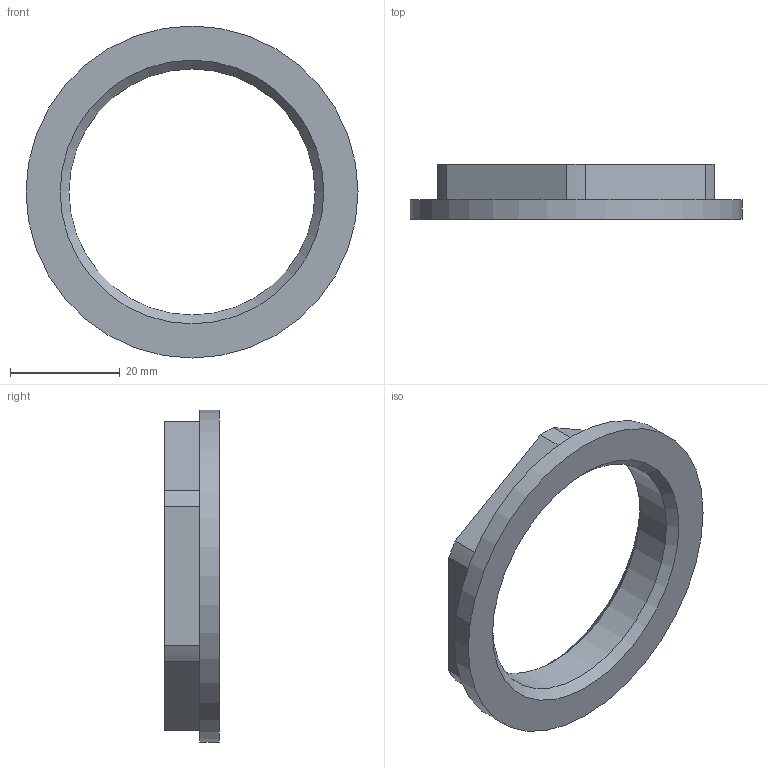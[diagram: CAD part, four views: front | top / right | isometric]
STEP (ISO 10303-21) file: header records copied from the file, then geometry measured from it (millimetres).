
FILE_DESCRIPTION(('STEP AP203'), '1');
FILE_NAME('覆.758414.005 - VTr.655.N.0008 扻艜謾骫罻', '2024-07-12T08:41:26', ('Boss'), (''), 'C3D Converter', 'C3D Toolkit', '');
FILE_SCHEMA(('CONFIG_CONTROL_DESIGN'));
Length unit declared in the file: millimetre
Products named in the file (1): ВР.758414.005
Bounding box: 60.5 x 10 x 60.5 mm (x, y, z)
Volume: 8262.6 mm3; surface area: 5526.1 mm2
Topology: 1 solids, 1 shells, 19 faces, 46 edges, 30 vertices
Faces by surface type: plane 9, cylinder 8, cone 2
Full cylindrical faces by diameter (mm): 44.846 x1, 60.5 x1
Entity records: 577 total; most frequent: DIRECTION 100, CARTESIAN_POINT 92, ORIENTED_EDGE 84, EDGE_CURVE 42, AXIS2_PLACEMENT_3D 38, VERTEX_POINT 30, EDGE_LOOP 26, LINE 24
